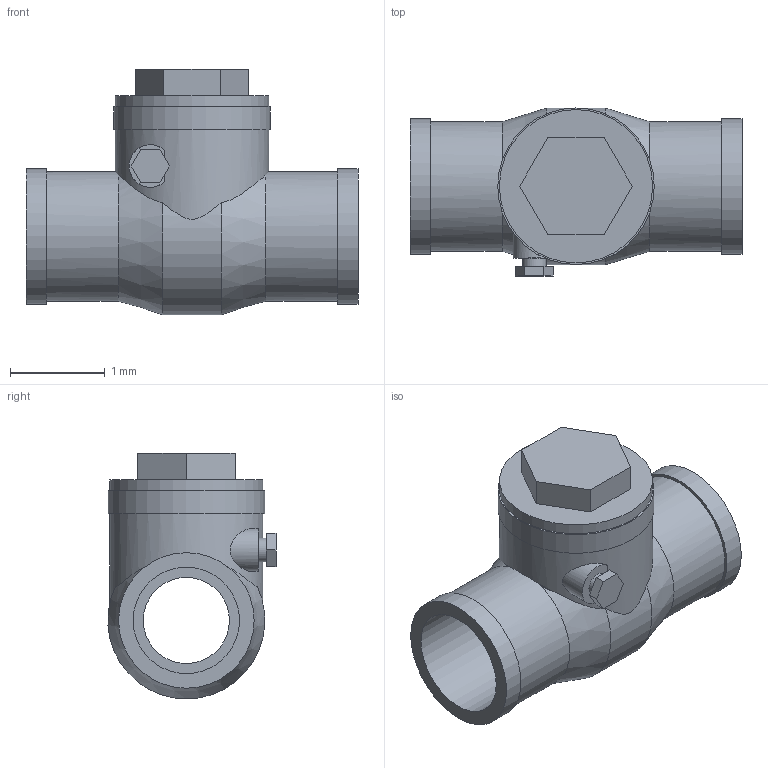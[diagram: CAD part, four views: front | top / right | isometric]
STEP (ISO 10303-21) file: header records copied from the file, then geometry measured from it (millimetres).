
FILE_DESCRIPTION(('Open CASCADE Model'),'2;1');
FILE_NAME('Open CASCADE Shape Model','2022-05-11T15:13:04',('Author'),( 'Open CASCADE'),'Open CASCADE STEP processor 7.3','Open CASCADE 7.3' ,'Unknown');
FILE_SCHEMA(('AUTOMOTIVE_DESIGN { 1 0 10303 214 1 1 1 1 }'));
Length unit declared in the file: millimetre
Products named in the file (1): Open CASCADE STEP translator 7.3 1
Bounding box: 3.51 x 1.78 x 2.6 mm (x, y, z)
Volume: 5.1 mm3; surface area: 41.5 mm2
Topology: 1 solids, 3 shells, 54 faces, 116 edges, 78 vertices
Faces by surface type: plane 31, cylinder 19, cone 4
Full cylindrical faces by diameter (mm): 0.25 x1, 0.91 x1, 1.125 x2, 1.372 x2, 1.433 x2, 1.62 x2, 1.655 x1
Entity records: 4312 total; most frequent: CARTESIAN_POINT 1958, DIRECTION 422, ORIENTED_EDGE 232, PCURVE 232, DEFINITIONAL_REPRESENTATION 232, LINE 217, VECTOR 217, EDGE_CURVE 116
